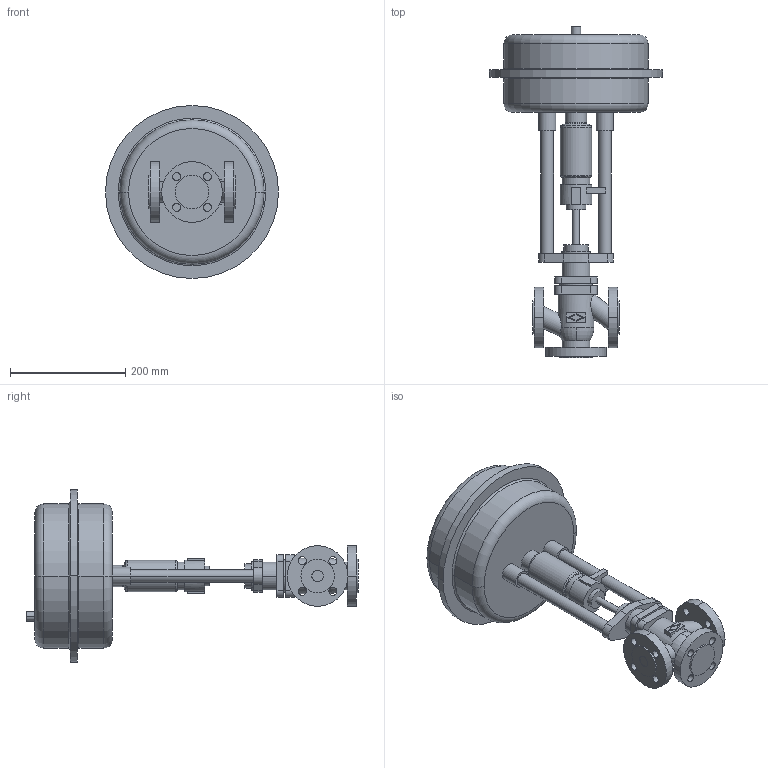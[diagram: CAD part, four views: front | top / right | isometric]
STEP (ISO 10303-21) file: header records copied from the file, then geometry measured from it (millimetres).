
FILE_DESCRIPTION(('OneSpaceDesigner STEP Export'),'2;1');
FILE_NAME('c000000670.stp','2006-09-19T10:06:45',(''),(''),'OneSpace Designer STEP processor for AP214 (Solid Model)','OneSpace Designer 13.20A 18-Aug-2005 (C) CoCreate Software GmbH','');
FILE_SCHEMA(('AUTOMOTIVE_DESIGN { 1 0 10303 214 1 1 1 1 }'));
Length unit declared in the file: millimetre
Products named in the file (2): 1; 2
Bounding box: 300 x 575.6 x 300 mm (x, y, z)
Volume: 8375895.3 mm3; surface area: 439344 mm2
Topology: 2 solids, 2 shells, 199 faces, 480 edges, 315 vertices
Faces by surface type: cylinder 96, plane 81, torus 18, cone 4
Entity records: 5318 total; most frequent: CARTESIAN_POINT 982, ORIENTED_EDGE 960, DIRECTION 800, EDGE_CURVE 480, VERTEX_POINT 315, AXIS2_PLACEMENT_3D 289, EDGE_LOOP 253, VECTOR 222
